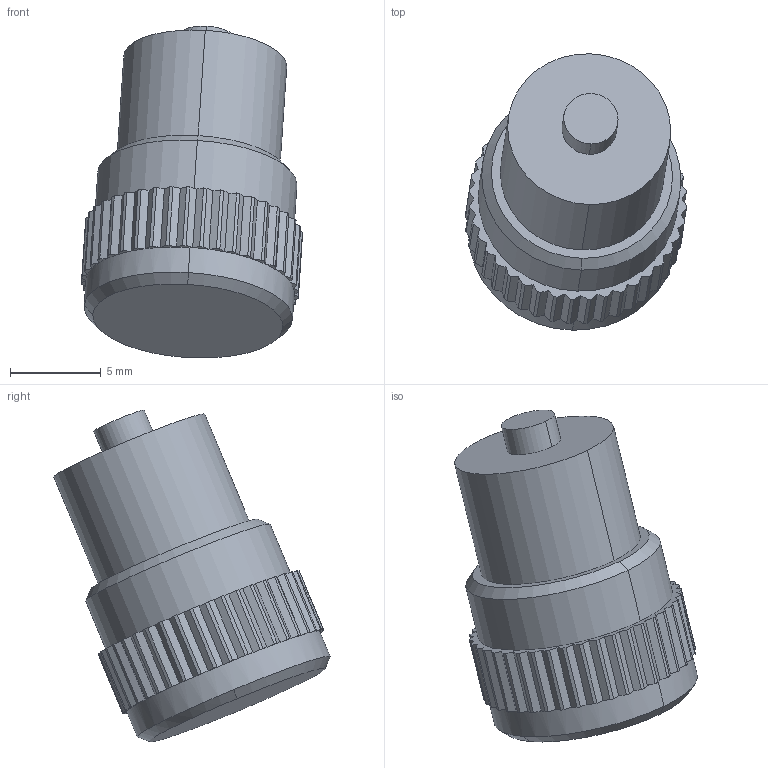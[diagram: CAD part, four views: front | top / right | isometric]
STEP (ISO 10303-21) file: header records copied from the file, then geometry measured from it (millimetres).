
FILE_DESCRIPTION (( 'STEP AP203' ), '1' );
FILE_NAME ('Bouton 8_2_Défaut_sldprt.STEP', '2018-04-06T14:28:37', ( '' ), ( '' ), 'SwSTEP 2.0', 'SolidWorks 2013', '' );
FILE_SCHEMA (( 'CONFIG_CONTROL_DESIGN' ));
Length unit declared in the file: millimetre
Products named in the file (1): Bouton 8_2_Défaut_sldprt
Bounding box: 12.19 x 15.21 x 18.29 mm (x, y, z)
Volume: 1338.4 mm3; surface area: 739.6 mm2
Topology: 1 solids, 1 shells, 178 faces, 436 edges, 263 vertices
Faces by surface type: plane 125, cylinder 48, cone 5
Entity records: 5236 total; most frequent: DIRECTION 937, CARTESIAN_POINT 878, ORIENTED_EDGE 872, EDGE_CURVE 436, AXIS2_PLACEMENT_3D 322, LINE 293, VECTOR 293, VERTEX_POINT 263
